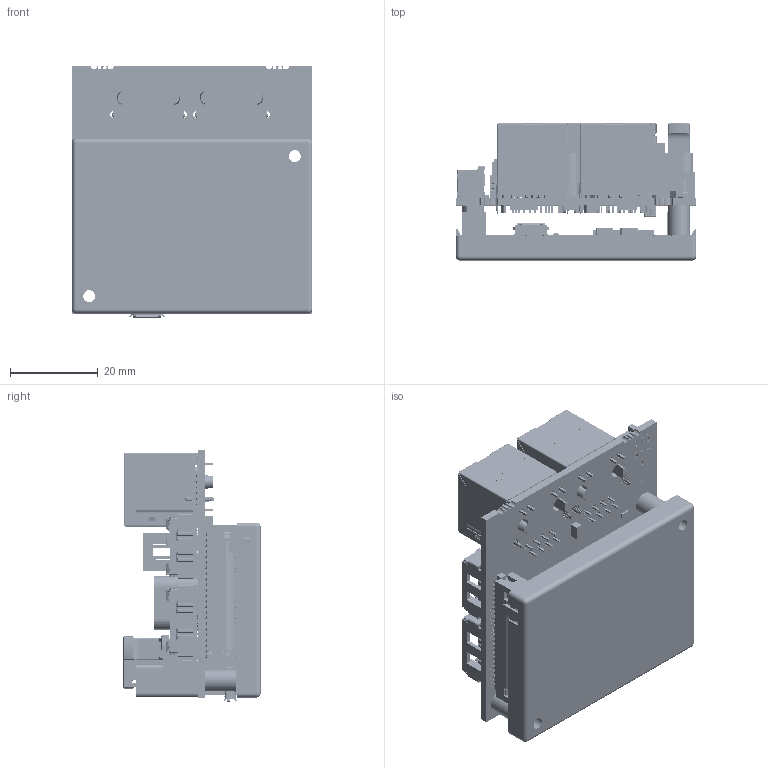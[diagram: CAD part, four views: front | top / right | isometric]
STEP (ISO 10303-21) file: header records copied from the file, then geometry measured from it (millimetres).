
FILE_DESCRIPTION((''),'2;1');
FILE_NAME('EPOS4_CB_ECAT_24_1-5_ASM','2018-11-22T',('MMAGRARI'),(''),'CREO PARAMETRIC BY PTC INC, 2017020','CREO PARAMETRIC BY PTC INC, 2017020','');
FILE_SCHEMA(('CONFIG_CONTROL_DESIGN'));
Products named in the file (106): EPOS4_CB_ECAT_24_1-5_PCB; EPOS4_CB_ECAT_24_1-5_PCB_SITO; EPOS4_CB_ECAT_24_1-5_PCB_SIBO; 5031541090; 5025840770; 52601-X10-8LF; 5025840870; DIP_SWITCH_2P_6; BASE_1_S; SHIELDING_1_S; ASSEM1_S_ASM; 74990101210_SINGLE_ASM; USER_LIBRARY-FUSE_NANO2; HARTING_HAR-FLEXICON_2_54_MSV-3; HARTING_HAR-FLEXICON_2_54_FPV-3; HARTING_HAR-FLEXICON_2_54-3_ASM; CUT-EXTRUDE11_45_; CUT-EXTRUDE11_11_; CUT-EXTRUDE11_46_; CUT-EXTRUDE11_12_; CUT-EXTRUDE11_13_; CUT-EXTRUDE11_3_; CUT-EXTRUDE11_16_; CUT-EXTRUDE11_17_; CUT-EXTRUDE11_24_; CUT-EXTRUDE11_15_; CUT-EXTRUDE11_14_; CUT-EXTRUDE11_25_; COMBINE2; CUT-EXTRUDE11_9_; CUT-EXTRUDE11_23_; CUT-EXTRUDE11_20_; CUT-EXTRUDE11_19_; CUT-EXTRUDE11_26_; CUT-EXTRUDE11_21_; CUT-EXTRUDE11_27_; CUT-EXTRUDE11_22_; CUT-EXTRUDE11_28_; CUT-EXTRUDE11_6_; CUT-EXTRUDE11_29_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
Assembly tree (138 placements, depth 4):
  EPOS4_CB_ECAT_24_1-5_ASM
    EPOS4_CB_ECAT_24_1-5_PCB
    EPOS4_CB_ECAT_24_1-5_PCB_SITO
    EPOS4_CB_ECAT_24_1-5_PCB_SIBO
    5031541090
    5025840770
    52601-X10-8LF
    5025840870  x2
    DIP_SWITCH_2P_6
    74990101210_SINGLE_ASM  x2
      ASSEM1_S_ASM
        BASE_1_S
        SHIELDING_1_S
    USER_LIBRARY-FUSE_NANO2
    HARTING_HAR-FLEXICON_2_54-3_ASM
      HARTING_HAR-FLEXICON_2_54_MSV-3
      HARTING_HAR-FLEXICON_2_54_FPV-3
    SFH31-_____B-D23-SP_ASM  x2
      11165__SFH31-NP_B-D23-SP-____ASM
        CUT-EXTRUDE11_45_
        CUT-EXTRUDE11_11_
        CUT-EXTRUDE11_46_
        CUT-EXTRUDE11_12_
        CUT-EXTRUDE11_13_
        CUT-EXTRUDE11_3_
        CUT-EXTRUDE11_16_
        CUT-EXTRUDE11_17_
        CUT-EXTRUDE11_24_
        CUT-EXTRUDE11_15_
        CUT-EXTRUDE11_14_
        CUT-EXTRUDE11_25_
        COMBINE2
        CUT-EXTRUDE11_9_
        CUT-EXTRUDE11_23_
        CUT-EXTRUDE11_20_
        CUT-EXTRUDE11_19_
        CUT-EXTRUDE11_26_
        CUT-EXTRUDE11_21_
        CUT-EXTRUDE11_27_
        CUT-EXTRUDE11_22_
        CUT-EXTRUDE11_28_
        CUT-EXTRUDE11_6_
        CUT-EXTRUDE11_29_
        CUT-EXTRUDE11_2_
        CUT-EXTRUDE11_30_
        CUT-EXTRUDE11_31_
        CUT-EXTRUDE11_32_
        CUT-EXTRUDE11_1_
        CUT-EXTRUDE11_4_
        CUT-EXTRUDE11_33_
        CUT-EXTRUDE11_8_
        CUT-EXTRUDE11_34_
        CUT-EXTRUDE11_5_
        CUT-EXTRUDE11_35_
        CUT-EXTRUDE11_36_
        CUT-EXTRUDE11_37_
        CUT-EXTRUDE11_18_
        CUT-EXTRUDE11_38_
        CUT-EXTRUDE11_39_
        CUT-EXTRUDE11_7_
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Bounding box: 55 x 31.35 x 57.4 mm (x, y, z)
Volume: 31582.8 mm3; surface area: 71462.7 mm2
Topology: 235 solids, 235 shells, 28653 faces, 79332 edges, 51323 vertices
Faces by surface type: plane 20036, cylinder 6052, extrusion 1540, torus 600, bspline 214, sphere 112, cone 99
Entity records: 822382 total; most frequent: CARTESIAN_POINT 134334, ORIENTED_EDGE 110242, DIRECTION 98247, PRESENTATION_STYLE_ASSIGNMENT 55908, EDGE_CURVE 55121, STYLED_ITEM 54509, CURVE_STYLE 53841, VECTOR 44465
